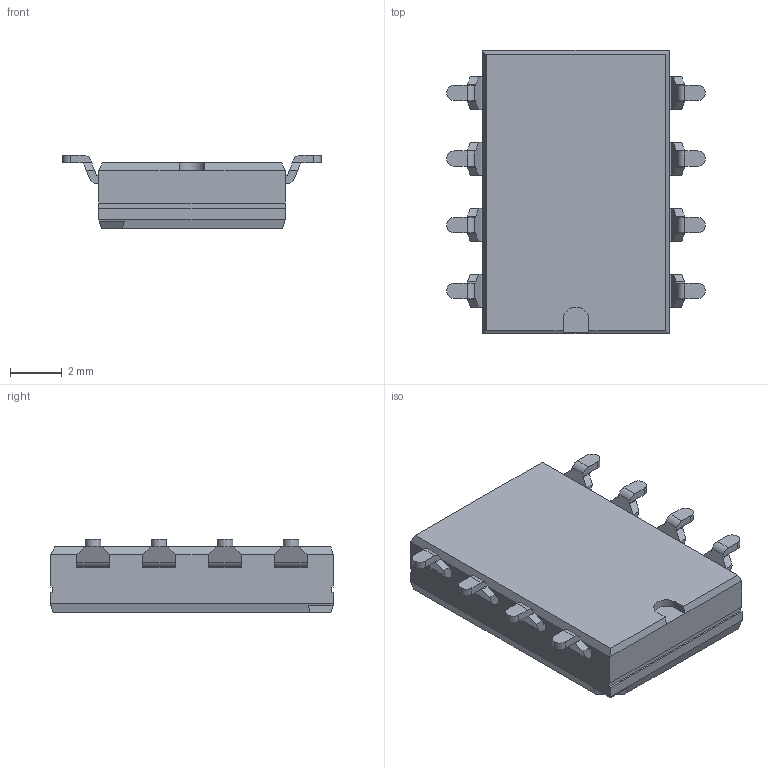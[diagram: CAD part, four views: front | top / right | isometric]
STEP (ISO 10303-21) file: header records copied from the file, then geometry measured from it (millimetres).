
FILE_DESCRIPTION((''),'2;1');
FILE_NAME('IKN0403000','2012-08-30T',('francis'),(''),'PRO/ENGINEER BY PARAMETRIC TECHNOLOGY CORPORATION, 2011370','PRO/ENGINEER BY PARAMETRIC TECHNOLOGY CORPORATION, 2011370','');
FILE_SCHEMA(('CONFIG_CONTROL_DESIGN'));
Length unit declared in the file: millimetre
Products named in the file (1): IKN0403000
Bounding box: 10 x 10.94 x 2.85 mm (x, y, z)
Volume: 146 mm3; surface area: 541.2 mm2
Topology: 1 solids, 1 shells, 817 faces, 2320 edges, 1534 vertices
Faces by surface type: plane 688, cylinder 129
Entity records: 26586 total; most frequent: CARTESIAN_POINT 4931, ORIENTED_EDGE 4640, DIRECTION 4252, EDGE_CURVE 2320, VECTOR 1974, LINE 1974, VERTEX_POINT 1534, AXIS2_PLACEMENT_3D 1139
